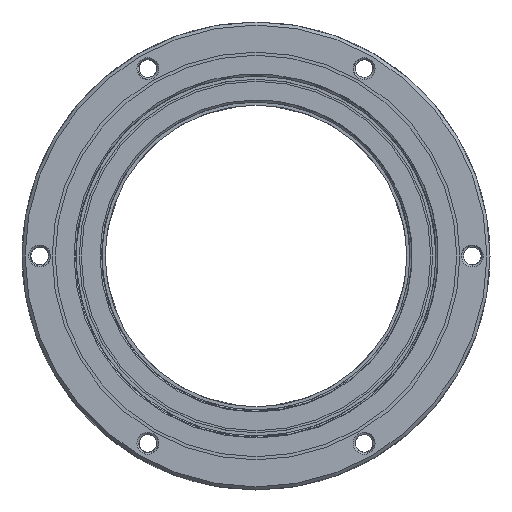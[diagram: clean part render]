
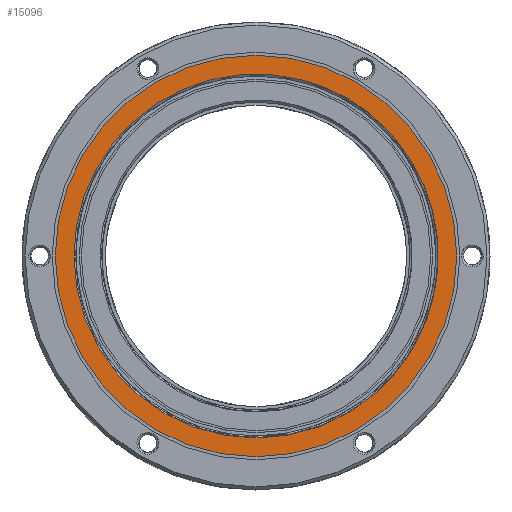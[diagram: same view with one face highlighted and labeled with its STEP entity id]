
A CAD part, left-side view. The second image highlights one B-rep face of the part: STEP entity #15096.
In plain terms, the highlighted planar face has unit normal (-1, 0, 0).
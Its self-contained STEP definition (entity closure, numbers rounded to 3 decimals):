
#354 = CARTESIAN_POINT ( 'NONE',  ( 5., 17.5, 0. ) ) ;
#726 = DIRECTION ( 'NONE',  ( -1., 0., 0. ) ) ;
#1089 = CARTESIAN_POINT ( 'NONE',  ( 5., 0., 0. ) ) ;
#1856 = EDGE_CURVE ( 'NONE', #23854, #21357, #23982, .T. ) ;
#2176 = AXIS2_PLACEMENT_3D ( 'NONE', #24842, #12413, #26939 ) ;
#2402 = CARTESIAN_POINT ( 'NONE',  ( 5., -16.562, 5.753 ) ) ;
#2667 = AXIS2_PLACEMENT_3D ( 'NONE', #10665, #10870, #10780 ) ;
#2826 = CARTESIAN_POINT ( 'NONE',  ( 5., 0., 0. ) ) ;
#3212 = DIRECTION ( 'NONE',  ( 0., 0., 1. ) ) ;
#4094 = B_SPLINE_CURVE_WITH_KNOTS ( 'NONE', 3,
 ( #16692, #14628, #18718, #5960, #20833, #8192, #22927, #10415, #25030, #12580, #27110, #14717 ),
 .UNSPECIFIED., .F., .F.,
 ( 4, 2, 2, 2, 2, 4 ),
 ( 0., 0.003, 0.007, 0.009, 0.01, 0.014 ),
 .UNSPECIFIED. ) ;
#4256 = CARTESIAN_POINT ( 'NONE',  ( 5., 17.5, 0. ) ) ;
#4833 = CARTESIAN_POINT ( 'NONE',  ( 5., -4.369, 16.946 ) ) ;
#5007 = DIRECTION ( 'NONE',  ( 0., 0., -1. ) ) ;
#5960 = CARTESIAN_POINT ( 'NONE',  ( 5., -13.996, 10.595 ) ) ;
#6084 = ORIENTED_EDGE ( 'NONE', *, *, #14938, .F. ) ;
#6505 = CARTESIAN_POINT ( 'NONE',  ( 5., -16.238, 6.569 ) ) ;
#6846 = VERTEX_POINT ( 'NONE', #4833 ) ;
#7016 = EDGE_LOOP ( 'NONE', ( #16419, #7128, #21760, #25556, #17260, #17830 ) ) ;
#7128 = ORIENTED_EDGE ( 'NONE', *, *, #23314, .F. ) ;
#7255 = CARTESIAN_POINT ( 'NONE',  ( 5., 0., -19.3 ) ) ;
#7565 = CARTESIAN_POINT ( 'NONE',  ( 5., -17.5, 0. ) ) ;
#8192 = CARTESIAN_POINT ( 'NONE',  ( 5., -12.066, 12.711 ) ) ;
#8399 = EDGE_CURVE ( 'NONE', #20123, #14656, #26310, .T. ) ;
#8809 = CIRCLE ( 'NONE', #18055, 17.5 ) ;
#8813 = CIRCLE ( 'NONE', #2176, 19.3 ) ;
#8885 = AXIS2_PLACEMENT_3D ( 'NONE', #1089, #16144, #3212 ) ;
#9388 = CARTESIAN_POINT ( 'NONE',  ( 5., -4.369, 16.946 ) ) ;
#10415 = CARTESIAN_POINT ( 'NONE',  ( 5., -10.75, 13.842 ) ) ;
#10516 = FACE_BOUND ( 'NONE', #7016, .T. ) ;
#10665 = CARTESIAN_POINT ( 'NONE',  ( 5., 0., 0. ) ) ;
#10780 = DIRECTION ( 'NONE',  ( 0., 0., -1. ) ) ;
#10870 = DIRECTION ( 'NONE',  ( -1., 0., 0. ) ) ;
#10939 = CIRCLE ( 'NONE', #21981, 17.5 ) ;
#12413 = DIRECTION ( 'NONE',  ( 1., 0., 0. ) ) ;
#12580 = CARTESIAN_POINT ( 'NONE',  ( 5., -8.869, 15.148 ) ) ;
#12911 = CARTESIAN_POINT ( 'NONE',  ( 5., -17.022, 4.061 ) ) ;
#13049 = DIRECTION ( 'NONE',  ( 0., 0., -1. ) ) ;
#13552 = EDGE_CURVE ( 'NONE', #19109, #23854, #10939, .T. ) ;
#13711 = CARTESIAN_POINT ( 'NONE',  ( 5., 0., 0. ) ) ;
#13798 = VERTEX_POINT ( 'NONE', #26993 ) ;
#14628 = CARTESIAN_POINT ( 'NONE',  ( 5., -15.803, 7.644 ) ) ;
#14656 = VERTEX_POINT ( 'NONE', #7255 ) ;
#14717 = CARTESIAN_POINT ( 'NONE',  ( 5., -6.793, 16.146 ) ) ;
#14938 = EDGE_CURVE ( 'NONE', #14656, #20123, #8813, .T. ) ;
#15096 = ADVANCED_FACE ( 'NONE', ( #10516, #26513 ), #23370, .F. ) ;
#15377 = CARTESIAN_POINT ( 'NONE',  ( 5., -16.824, 4.916 ) ) ;
#15715 = CARTESIAN_POINT ( 'NONE',  ( 5., -6.005, 16.471 ) ) ;
#15794 = DIRECTION ( 'NONE',  ( 0., 0., -1. ) ) ;
#16144 = DIRECTION ( 'NONE',  ( 1., 0., 0. ) ) ;
#16419 = ORIENTED_EDGE ( 'NONE', *, *, #19786, .F. ) ;
#16692 = CARTESIAN_POINT ( 'NONE',  ( 5., -16.238, 6.569 ) ) ;
#17143 = B_SPLINE_CURVE_WITH_KNOTS ( 'NONE', 3,
 ( #23570, #15377, #2402, #17446 ),
 .UNSPECIFIED., .F., .F.,
 ( 4, 4 ),
 ( 0., 0.003 ),
 .UNSPECIFIED. ) ;
#17260 = ORIENTED_EDGE ( 'NONE', *, *, #23569, .F. ) ;
#17446 = CARTESIAN_POINT ( 'NONE',  ( 5., -16.238, 6.569 ) ) ;
#17830 = ORIENTED_EDGE ( 'NONE', *, *, #27098, .F. ) ;
#17842 = DIRECTION ( 'NONE',  ( -1., 0., 0. ) ) ;
#18055 = AXIS2_PLACEMENT_3D ( 'NONE', #13711, #726, #15794 ) ;
#18718 = CARTESIAN_POINT ( 'NONE',  ( 5., -15.259, 8.678 ) ) ;
#19109 = VERTEX_POINT ( 'NONE', #354 ) ;
#19155 = EDGE_LOOP ( 'NONE', ( #25023, #6084 ) ) ;
#19748 = CARTESIAN_POINT ( 'NONE',  ( 5., -6.793, 16.146 ) ) ;
#19786 = EDGE_CURVE ( 'NONE', #27454, #13798, #4094, .T. ) ;
#20123 = VERTEX_POINT ( 'NONE', #27166 ) ;
#20833 = CARTESIAN_POINT ( 'NONE',  ( 5., -13.277, 11.484 ) ) ;
#21357 = VERTEX_POINT ( 'NONE', #12911 ) ;
#21760 = ORIENTED_EDGE ( 'NONE', *, *, #1856, .F. ) ;
#21945 = CARTESIAN_POINT ( 'NONE',  ( 5., -5.196, 16.738 ) ) ;
#21981 = AXIS2_PLACEMENT_3D ( 'NONE', #2826, #17842, #5007 ) ;
#22927 = CARTESIAN_POINT ( 'NONE',  ( 5., -11.637, 13.105 ) ) ;
#23314 = EDGE_CURVE ( 'NONE', #21357, #27454, #17143, .T. ) ;
#23370 = PLANE ( 'NONE',  #26370 ) ;
#23546 = B_SPLINE_CURVE_WITH_KNOTS ( 'NONE', 3,
 ( #19748, #15715, #21945, #9388 ),
 .UNSPECIFIED., .F., .F.,
 ( 4, 4 ),
 ( 0., 0.003 ),
 .UNSPECIFIED. ) ;
#23569 = EDGE_CURVE ( 'NONE', #6846, #19109, #8809, .T. ) ;
#23570 = CARTESIAN_POINT ( 'NONE',  ( 5., -17.022, 4.061 ) ) ;
#23854 = VERTEX_POINT ( 'NONE', #7565 ) ;
#23982 = CIRCLE ( 'NONE', #2667, 17.5 ) ;
#24842 = CARTESIAN_POINT ( 'NONE',  ( 5., 0., 0. ) ) ;
#25023 = ORIENTED_EDGE ( 'NONE', *, *, #8399, .F. ) ;
#25030 = CARTESIAN_POINT ( 'NONE',  ( 5., -10.291, 14.186 ) ) ;
#25456 = DIRECTION ( 'NONE',  ( 1., 0., 0. ) ) ;
#25556 = ORIENTED_EDGE ( 'NONE', *, *, #13552, .F. ) ;
#26310 = CIRCLE ( 'NONE', #8885, 19.3 ) ;
#26370 = AXIS2_PLACEMENT_3D ( 'NONE', #4256, #25456, #13049 ) ;
#26513 = FACE_OUTER_BOUND ( 'NONE', #19155, .T. ) ;
#26939 = DIRECTION ( 'NONE',  ( 0., 0., 1. ) ) ;
#26993 = CARTESIAN_POINT ( 'NONE',  ( 5., -6.793, 16.146 ) ) ;
#27098 = EDGE_CURVE ( 'NONE', #13798, #6846, #23546, .T. ) ;
#27110 = CARTESIAN_POINT ( 'NONE',  ( 5., -7.862, 15.696 ) ) ;
#27166 = CARTESIAN_POINT ( 'NONE',  ( 5., 0., 19.3 ) ) ;
#27454 = VERTEX_POINT ( 'NONE', #6505 ) ;
